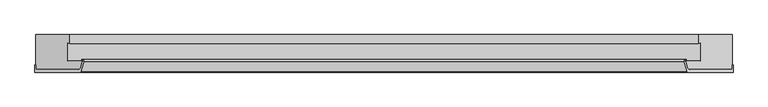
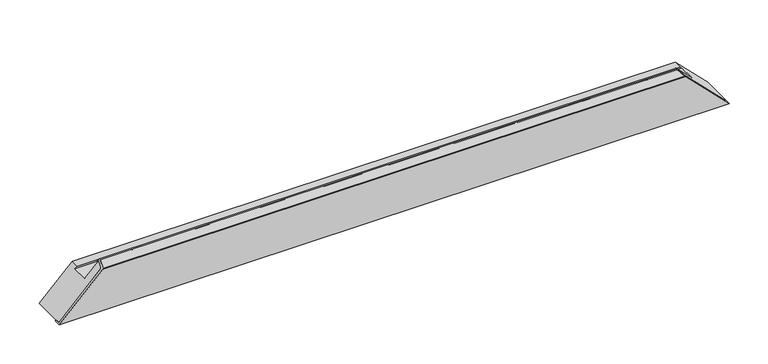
"""IFC4 building model written with IfcOpenShell, lengths in millimetres: proxy geometry, Weiku - Montante - Caixilho 02.2.01.005 : Weiku - Montante - Caixilho 02.2.01.005."""

from ifc_helpers import new_model, si_unit, frame, origin, place, context, project, spatial, polyline, ellipse_curve, source, transform, mapped, element, save
from ifc_brep_helpers import plane_surface, cylinder_surface, revolved_surface, advanced_brep


def generic_models_206287d6(model_context):
    return source(origin(), model_context, "Body", "AdvancedBrep", [
        advanced_brep(
        [(435.5913236, -4.0, 64.0336764), (500.625, -4.0, -1.0), (500.625, 6.4862095, -1.0), (499.625, 6.4862095, 0.0), (499.625, 0.0, 0.0), (438.1247332, 0.0, 61.5002668), (435.2269557, 2.2235429, 64.3980443), (432.743227, 11.4929448, 66.881773), (433.5159676, 12.5, 66.1090324), (433.5159676, 14.5, 66.1090324), (430.8113753, 10.9753067, 68.8136247), (434.6253978, -3.258819, 64.9996022), (-500.625, -4.0, -1.0), (-435.5913236, -4.0, 64.0336764), (-434.6253978, -3.258819, 64.9996022), (-430.8113753, 10.9753067, 68.8136247), (-433.5159676, 14.5, 66.1090324), (-433.5159676, 12.5, 66.1090324), (-432.743227, 11.4929448, 66.881773), (-435.2269557, 2.2235429, 64.3980443), (-438.1247332, 0.0, 61.5002668), (-499.625, 0.0, 0.0), (-499.625, 6.4862095, 0.0), (-500.625, 6.4862095, -1.0)],
        [
            (0, 1),
            (1, 2),
            (2, 3),
            (3, 4),
            (4, 5),
            (5, 6, ellipse_curve(frame((438.1247332, 3.0, 61.5002668), z_axis=(-0.707106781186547, 0.0, -0.7071067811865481), x_axis=(0.7071067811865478, 0.0, -0.707106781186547)), 4.2426407, 3.0)),
            (6, 7),
            (7, 8, ellipse_curve(frame((433.5159676, 11.7, 66.1090324), z_axis=(-0.707106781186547, 0.0, -0.7071067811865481), x_axis=(0.7071067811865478, 0.0, -0.707106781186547)), 1.1313708, 0.8)),
            (8, 9),
            (9, 10, ellipse_curve(frame((433.5159676, 11.7, 66.1090324), z_axis=(0.707106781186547, 0.0, 0.7071067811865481), x_axis=(-0.7071067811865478, 0.0, 0.707106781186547)), 3.959798, 2.8)),
            (10, 11),
            (11, 0, ellipse_curve(frame((435.5913236, -3.0, 64.0336764), z_axis=(0.707106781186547, 0.0, 0.7071067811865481), x_axis=(-0.7071067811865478, 0.0, 0.707106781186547)), 1.4142136, 1.0)),
            (12, 13),
            (13, 14, ellipse_curve(frame((-435.5913236, -3.0, 64.0336764), z_axis=(-0.707106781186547, 0.0, 0.707106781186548), x_axis=(-0.7071067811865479, 0.0, -0.707106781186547)), 1.4142136, 1.0)),
            (14, 15),
            (15, 16, ellipse_curve(frame((-433.5159676, 11.7, 66.1090324), z_axis=(-0.707106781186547, 0.0, 0.707106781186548), x_axis=(-0.7071067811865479, 0.0, -0.707106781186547)), 3.959798, 2.8)),
            (16, 17),
            (17, 18, ellipse_curve(frame((-433.5159676, 11.7, 66.1090324), z_axis=(0.707106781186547, 0.0, -0.707106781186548), x_axis=(0.7071067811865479, 0.0, 0.707106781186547)), 1.1313708, 0.8)),
            (18, 19),
            (19, 20, ellipse_curve(frame((-438.1247332, 3.0, 61.5002668), z_axis=(0.707106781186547, 0.0, -0.707106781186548), x_axis=(0.7071067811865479, 0.0, 0.707106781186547)), 4.2426407, 3.0)),
            (20, 21),
            (21, 22),
            (22, 23),
            (23, 12),
            (0, 13),
            (12, 1),
            (11, 14),
            (10, 15),
            (9, 16),
            (8, 17),
            (7, 18),
            (6, 19),
            (5, 20),
            (4, 21),
            (3, 22),
            (2, 23),
        ],
        [
            plane_surface(frame((429.625, -15.0, 70.0), z_axis=(0.707106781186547, 0.0, 0.7071067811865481), x_axis=(0.0, 1.0, 0.0))),
            plane_surface(frame((-569.625, -15.0, -70.0), z_axis=(-0.707106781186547, 0.0, 0.707106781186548), x_axis=(0.0, 1.0, 0.0))),
            plane_surface(frame((-502.4534271, -4.0, -1.0), z_axis=(0.0, -1.0, 0.0), x_axis=(1.0, 0.0, 0.0))),
            cylinder_surface(frame((-502.4534271, -3.0, 64.0336764), z_axis=(-1.0, 0.0, 0.0), x_axis=(0.0, 1.0, 0.0)), 1.0),
            plane_surface(frame((-502.4534271, -3.258819, 64.9996022), z_axis=(0.0, -0.25881904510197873, 0.9659258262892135), x_axis=(1.0, 0.0, 0.0))),
            cylinder_surface(frame((-502.4534271, 11.7, 66.1090324), z_axis=(-1.0, 0.0, 0.0), x_axis=(0.0, 1.0, 0.0)), 2.8),
            plane_surface(frame((-502.4534271, 14.5, 66.1090324), z_axis=(0.0, 0.0, -1.0), x_axis=(1.0, 0.0, 0.0))),
            revolved_surface(polyline([(434.3159675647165, 12.5, 66.1090324), (-434.31596756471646, 12.5, 66.1090324)]), (-502.4534271, 11.7, 66.1090324), (1.0, 0.0, 0.0)),
            plane_surface(frame((-502.4534271, 11.4929448, 66.881773), z_axis=(0.0, 0.2588190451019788, -0.9659258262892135), x_axis=(1.0, 0.0, 0.0))),
            revolved_surface(polyline([(441.12473320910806, 6.0, 61.5002668), (-441.124733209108, 6.0, 61.5002668)]), (-502.4534271, 3.0, 61.5002668), (1.0, 0.0, 0.0)),
            plane_surface(frame((-502.4534271, 0.0, 61.5002668), z_axis=(0.0, 1.0, 0.0), x_axis=(1.0, 0.0, 0.0))),
            plane_surface(frame((-502.4534271, 0.0, 0.0), z_axis=(0.0, 0.0, 1.0), x_axis=(1.0, 0.0, 0.0))),
            plane_surface(frame((-502.4534271, 6.4862095, 0.0), z_axis=(0.0, 1.0, 0.0), x_axis=(1.0, 0.0, 0.0))),
            plane_surface(frame((-502.4534271, 6.4862095, -1.0), z_axis=(0.0, 0.0, -1.0), x_axis=(1.0, 0.0, 0.0))),
        ],
        [
            (0, [[1, 2, 3, 4, 5, 6, 7, 8, 9, 10, 11, 12]]),
            (1, [[13, 14, 15, 16, 17, 18, 19, 20, 21, 22, 23, 24]]),
            (2, [[-1, 25, -13, 26]]),
            (3, [[-12, 27, -14, -25]]),
            (4, [[-11, 28, -15, -27]]),
            (5, [[-10, 29, -16, -28]]),
            (6, [[-9, 30, -17, -29]]),
            (7, [[-8, 31, -18, -30]]),
            (8, [[-7, 32, -19, -31]]),
            (9, [[-6, 33, -20, -32]]),
            (10, [[-5, 34, -21, -33]]),
            (11, [[-4, 35, -22, -34]]),
            (12, [[-3, 36, -23, -35]]),
            (13, [[-2, -26, -24, -36]]),
        ],
    ),
        advanced_brep(
        [(-453.625, 12.5, 46.0), (-433.5159676, 12.5, 66.1090324), (433.5159676, 12.5, 66.1090324), (453.625, 12.5, 46.0), (-453.625, 37.8314286, 46.0), (453.625, 37.8314286, 46.0), (-450.625, 37.027581, 49.0), (450.625, 37.027581, 49.0), (-450.625, 50.0, 49.0), (450.625, 50.0, 49.0), (499.625, 50.0, 0.0), (-499.625, 50.0, 0.0), (499.625, 0.0, 0.0), (-499.625, 0.0, 0.0), (438.1247332, 0.0, 61.5002668), (-438.1247332, 0.0, 61.5002668), (-432.743227, 11.4929448, 66.881773), (-435.2269557, 2.2235429, 64.3980443), (435.2269557, 2.2235429, 64.3980443), (432.743227, 11.4929448, 66.881773)],
        [
            (0, 1),
            (1, 2),
            (2, 3),
            (3, 0),
            (4, 0),
            (3, 5),
            (5, 4),
            (6, 4),
            (5, 7),
            (7, 6),
            (8, 6),
            (7, 9),
            (9, 8),
            (10, 11),
            (11, 8),
            (9, 10),
            (10, 12),
            (12, 13),
            (13, 11),
            (12, 14),
            (14, 15),
            (15, 13),
            (16, 17),
            (17, 18),
            (18, 19),
            (19, 16),
            (15, 17, ellipse_curve(frame((-438.1247332, 3.0, 61.5002668), z_axis=(-0.707106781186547, 0.0, 0.707106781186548), x_axis=(-0.7071067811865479, 0.0, -0.707106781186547)), 4.2426407, 3.0)),
            (16, 1, ellipse_curve(frame((-433.5159676, 11.7, 66.1090324), z_axis=(-0.707106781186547, 0.0, 0.707106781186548), x_axis=(-0.7071067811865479, 0.0, -0.707106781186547)), 1.1313708, 0.8)),
            (2, 19, ellipse_curve(frame((433.5159676, 11.7, 66.1090324), z_axis=(0.707106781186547, 0.0, 0.7071067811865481), x_axis=(-0.7071067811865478, 0.0, 0.707106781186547)), 1.1313708, 0.8)),
            (18, 14, ellipse_curve(frame((438.1247332, 3.0, 61.5002668), z_axis=(0.707106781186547, 0.0, 0.7071067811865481), x_axis=(-0.7071067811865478, 0.0, 0.707106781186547)), 4.2426407, 3.0)),
        ],
        [
            plane_surface(frame((-499.625, 12.5, 66.1090324), z_axis=(0.0, 1.0, 0.0), x_axis=(1.0, 0.0, 0.0))),
            plane_surface(frame((-499.625, 12.5, 46.0), z_axis=(0.0, 0.0, 1.0), x_axis=(1.0, 0.0, 0.0))),
            plane_surface(frame((-499.625, 37.8314286, 46.0), z_axis=(0.0, -0.9659258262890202, -0.2588190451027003), x_axis=(1.0, 0.0, 0.0))),
            plane_surface(frame((-499.625, 37.027581, 49.0), z_axis=(0.0, 0.0, 1.0), x_axis=(1.0, 0.0, 0.0))),
            plane_surface(frame((-499.625, 50.0, 49.0), z_axis=(0.0, 1.0, 0.0), x_axis=(1.0, 0.0, 0.0))),
            plane_surface(frame((-499.625, 50.0, 0.0), z_axis=(0.0, 0.0, -1.0), x_axis=(1.0, 0.0, 0.0))),
            plane_surface(frame((-499.625, 0.0, 0.0), z_axis=(0.0, -1.0, 0.0), x_axis=(1.0, 0.0, 0.0))),
            plane_surface(frame((-499.625, 2.2235429, 64.3980443), z_axis=(0.0, -0.2588190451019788, 0.9659258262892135), x_axis=(1.0, 0.0, 0.0))),
            plane_surface(frame((-569.625, -15.0, -70.0), z_axis=(-0.707106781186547, 0.0, 0.707106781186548), x_axis=(0.0, 1.0, 0.0))),
            plane_surface(frame((429.625, -15.0, 70.0), z_axis=(0.707106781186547, 0.0, 0.7071067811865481), x_axis=(0.0, 1.0, 0.0))),
            cylinder_surface(frame((-499.625, 11.7, 66.1090324), z_axis=(-1.0, 0.0, 0.0), x_axis=(0.0, 1.0, 0.0)), 0.8),
            cylinder_surface(frame((-499.625, 3.0, 61.5002668), z_axis=(-1.0, 0.0, 0.0), x_axis=(0.0, 1.0, 0.0)), 3.0),
        ],
        [
            (0, [[1, 2, 3, 4]]),
            (1, [[5, -4, 6, 7]]),
            (2, [[8, -7, 9, 10]]),
            (3, [[11, -10, 12, 13]]),
            (4, [[14, 15, -13, 16]]),
            (5, [[-14, 17, 18, 19]]),
            (6, [[-18, 20, 21, 22]]),
            (7, [[23, 24, 25, 26]]),
            (8, [[-1, -5, -8, -11, -15, -19, -22, 27, -23, 28]]),
            (9, [[-3, 29, -25, 30, -20, -17, -16, -12, -9, -6]]),
            (10, [[-28, -26, -29, -2]]),
            (11, [[-27, -21, -30, -24]]),
        ],
    ),
    ])


if __name__ == "__main__":
    model = new_model("IFC4")
    model_context = context("Model", 3, world=origin())
    ifc_project = project(units=[si_unit("LENGTHUNIT", "METRE", prefix="MILLI")], contexts=[model_context])
    site = spatial("IfcSite", under=ifc_project)
    building = spatial("IfcBuilding", under=site)
    placement = place(None, origin())
    generic_models_shape = generic_models_206287d6(model_context)
    element("IfcBuildingElementProxy", 1, Name="Weiku - Montante - Caixilho 02.2.01.005 : Weiku - Montante - Caixilho 02.2.01.005", ObjectType="Weiku - Montante - Caixilho 02.2.01.005 : Weiku - Montante - Caixilho 02.2.01.005", at=placement, inside=building, context=model_context, shape_type="MappedRepresentation", body=[
        mapped(generic_models_shape, transform((0.0, 0.0, 0.0), x_axis=(1.0, 0.0, 0.0), y_axis=(0.0, 1.0, 0.0), z_axis=(0.0, 0.0, 1.0))),
    ])
    save(model, "model.ifc")
